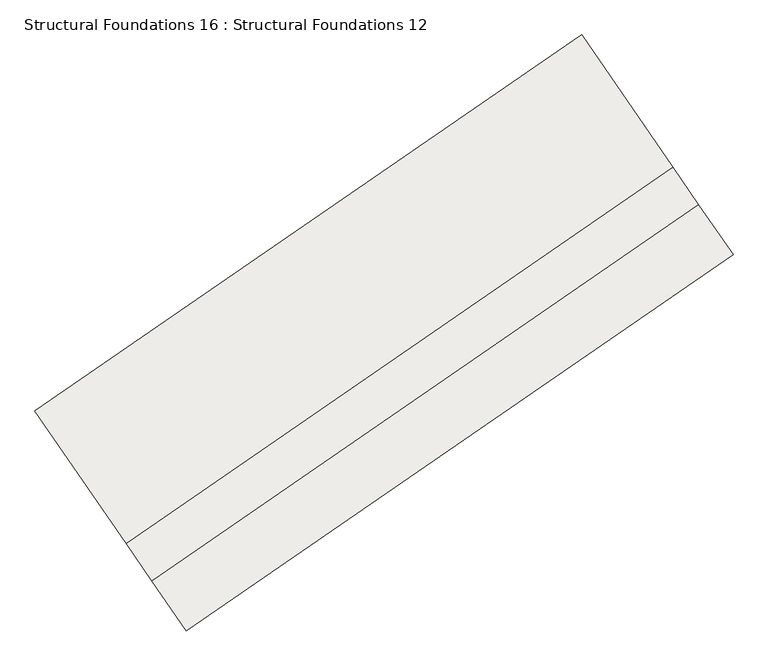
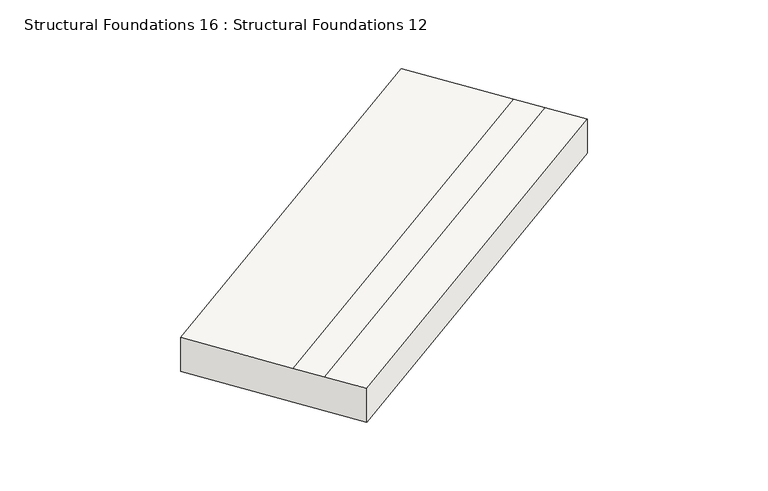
"""IFC4 building model written with IfcOpenShell, lengths in millimetres: slab geometry, Structural Foundations 16 : Structural Foundations 12."""

from ifc_helpers import new_model, si_unit, origin, place, context, project, spatial, faceted_brep, source, transform, mapped, element, save


def structural_foundations_16_structural_foundations_12_ec0acf0a(model_context):
    return source(origin(), model_context, "Body", "Brep", [
        faceted_brep([(-311964.2792586, -416001.1136989, 634182.0000001), (-311964.2792586, -416001.1136989, 634882.0000001), (-310770.1791507, -417734.6505269, 634881.9999998), (-310432.6544179, -418224.6526221, 634881.9999998), (-309978.8396497, -418883.4789705, 634881.9999996), (-309978.8396497, -418883.4789705, 634181.9999996), (-319129.015791, -420936.3492983, 634109.0000005), (-317143.5761821, -423818.7145699, 634109.0), (-317143.5761821, -423818.7145699, 634809.0), (-317597.3909502, -423159.8882215, 634809.0000001), (-317934.9156831, -422669.8861263, 634809.0000002), (-319129.015791, -420936.3492983, 634809.0000005)], [[[0, 1, 2, 3, 4, 5]], [[6, 7, 8, 9, 10, 11]], [[6, 11, 1, 0]], [[11, 10, 2, 1]], [[10, 9, 3, 2]], [[9, 8, 4, 3]], [[8, 7, 5, 4]], [[7, 6, 0, 5]]]),
    ])


if __name__ == "__main__":
    model = new_model("IFC4")
    model_context = context("Model", 3, world=origin())
    ifc_project = project(units=[si_unit("LENGTHUNIT", "METRE", prefix="MILLI")], contexts=[model_context])
    site = spatial("IfcSite", under=ifc_project)
    building = spatial("IfcBuilding", under=site)
    placement = place(None, origin())
    structural_foundations_16_structural_foundations_12_shape = structural_foundations_16_structural_foundations_12_ec0acf0a(model_context)
    element("IfcSlab", 1, ObjectType="Structural Foundations 16 : Structural Foundations 12", at=placement, inside=building, context=model_context, shape_type="MappedRepresentation", body=[
        mapped(structural_foundations_16_structural_foundations_12_shape, transform((0.0, 0.0, 0.0), x_axis=(1.0, 0.0, 0.0), y_axis=(0.0, 1.0, 0.0), z_axis=(0.0, 0.0, 1.0))),
    ])
    save(model, "model.ifc")
